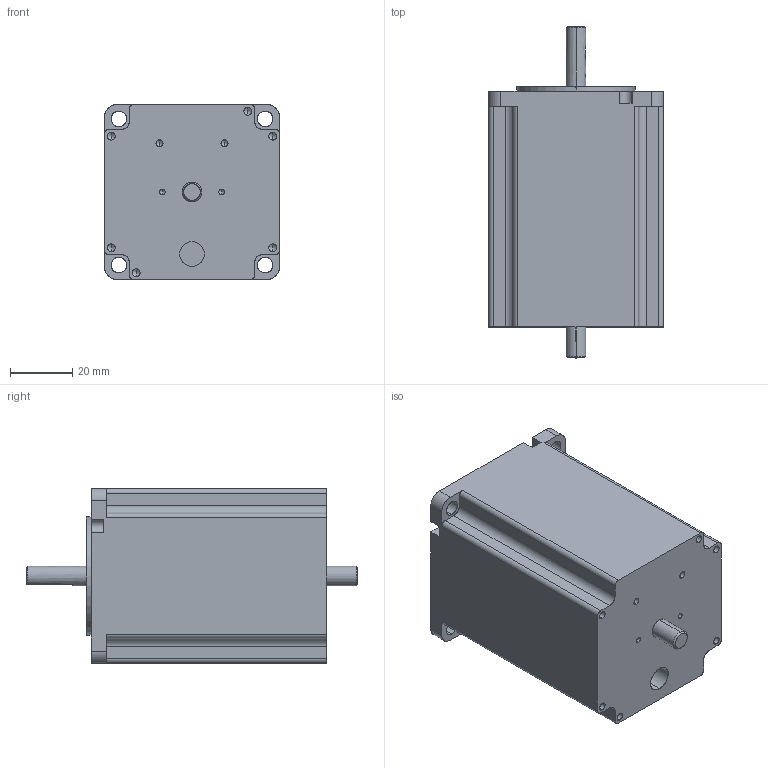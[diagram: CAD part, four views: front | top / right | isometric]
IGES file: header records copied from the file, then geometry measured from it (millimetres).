
Start section: SolidWorks IGES file using analytic representation for surfaces
Global section: file name: C:\Users\Christine\Documents\Arcus\Project #21\STM-23-3\STM-23-3.IGS; native system: SolidWorks 2008; preprocessor: SolidWorks 2008; author: Christine; date: 131009.110937; units: millimetre
Bounding box: 56.4 x 107 x 56.4 mm (x, y, z)
Surface area: 24774.8 mm2 (no closed solid volume)
Topology: 0 solids, 0 shells, 132 faces, 1983 edges, 1955 vertices
Faces by surface type: revolution 96, bspline 36
